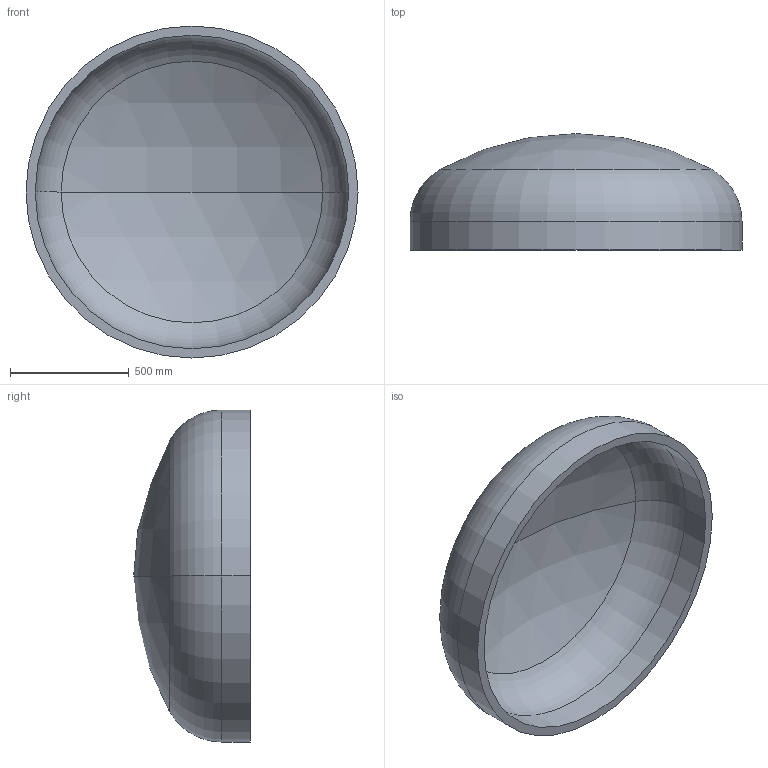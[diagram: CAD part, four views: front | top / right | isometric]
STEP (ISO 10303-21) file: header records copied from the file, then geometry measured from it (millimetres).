
FILE_DESCRIPTION (( 'STEP AP203' ), '1' );
FILE_NAME ('DIN 28013 Korbbogenform_-_Boden DIN 28013 - 1400 x 120 - I - s=39.step', '2016-07-01T10:17:05', ( '' ), ( '' ), 'SwSTEP 2.0', 'SolidWorks 2013', '' );
FILE_SCHEMA (( 'CONFIG_CONTROL_DESIGN' ));
Length unit declared in the file: millimetre
Products named in the file (1): DIN 28013 Korbbogenform_-_Boden DIN 28013 - 1400 x 120 - I - s=39
Bounding box: 1400 x 491.53 x 1400 mm (x, y, z)
Volume: 100137727.5 mm3; surface area: 5305204.8 mm2
Topology: 1 solids, 1 shells, 13 faces, 24 edges, 14 vertices
Faces by surface type: torus 4, cylinder 4, sphere 4, plane 1
Entity records: 407 total; most frequent: DIRECTION 72, CARTESIAN_POINT 52, ORIENTED_EDGE 48, AXIS2_PLACEMENT_3D 34, EDGE_CURVE 24, CIRCLE 20, VERTEX_POINT 14, EDGE_LOOP 14
